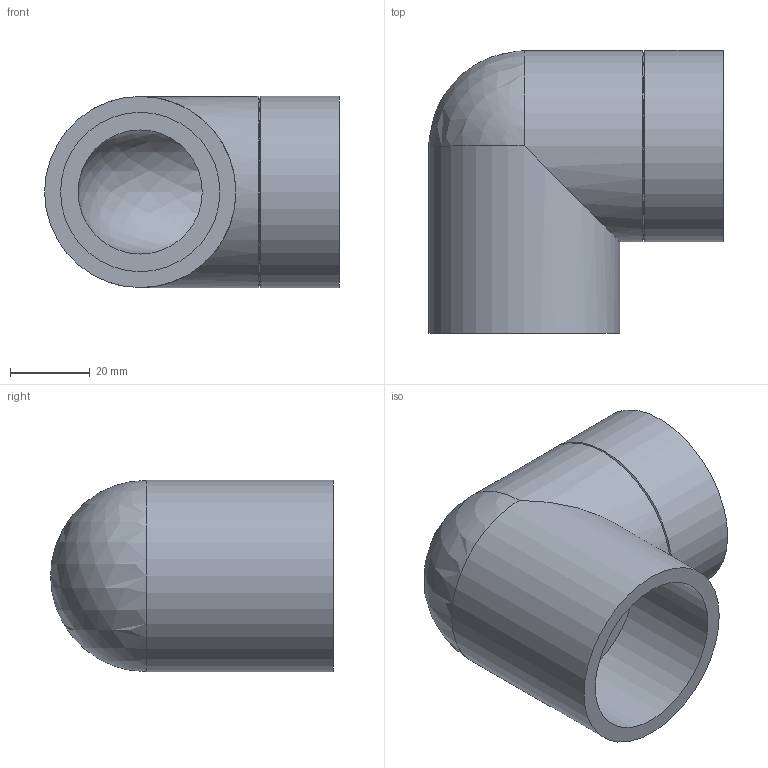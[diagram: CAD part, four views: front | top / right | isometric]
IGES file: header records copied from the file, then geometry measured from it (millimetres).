
Global section: file name: 057502040013.ipt; native system: Autodesk Inventor 2015; preprocessor: unknown; author: KIM; date: 20171207.165901; units: millimetre
Bounding box: 74 x 71 x 48 mm (x, y, z)
Volume: 81668.9 mm3; surface area: 26256.1 mm2
Topology: 1 solids, 1 shells, 15 faces, 32 edges, 19 vertices
Faces by surface type: revolution 5, plane 4, cylinder 3, cone 2, sphere 1
Full cylindrical faces by diameter (mm): 48 x3
